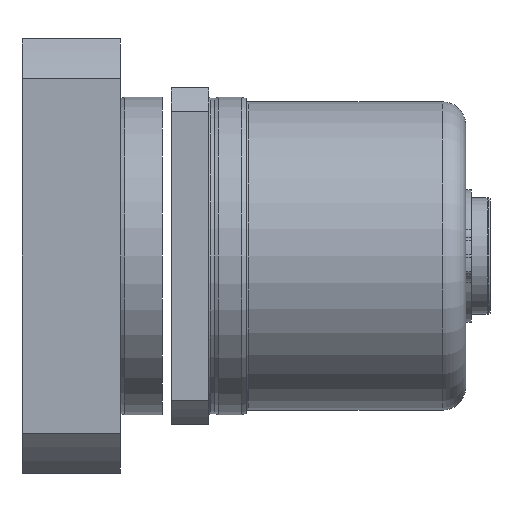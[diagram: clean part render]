
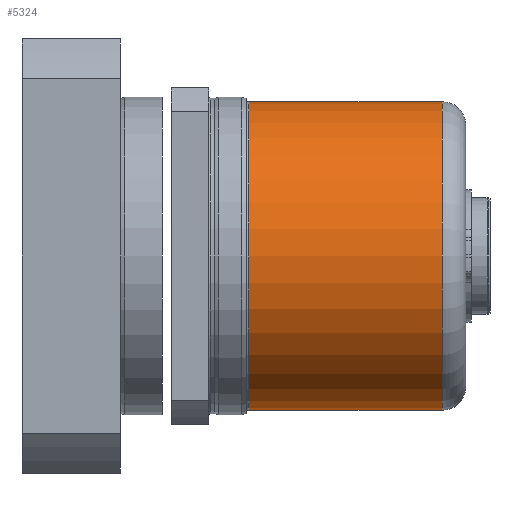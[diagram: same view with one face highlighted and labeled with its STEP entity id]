
A CAD part, front view. The second image highlights one B-rep face of the part: STEP entity #5324.
In plain terms, the highlighted cylindrical face has radius 33 mm (diameter 66 mm), a partial arc.
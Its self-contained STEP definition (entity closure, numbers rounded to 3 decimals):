
#173 = ORIENTED_EDGE ( 'NONE', *, *, #11495, .T. ) ;
#676 = EDGE_CURVE ( 'NONE', #5536, #8089, #12330, .T. ) ;
#807 = CARTESIAN_POINT ( 'NONE',  ( 69., 0., 33. ) ) ;
#1372 = VECTOR ( 'NONE', #6450, 1000. ) ;
#2960 = FACE_OUTER_BOUND ( 'NONE', #11163, .T. ) ;
#3370 = ORIENTED_EDGE ( 'NONE', *, *, #5096, .F. ) ;
#4267 = DIRECTION ( 'NONE',  ( 1., 0., 0. ) ) ;
#4444 = VECTOR ( 'NONE', #11210, 1000. ) ;
#5096 = EDGE_CURVE ( 'NONE', #5536, #9039, #9550, .T. ) ;
#5120 = CARTESIAN_POINT ( 'NONE',  ( 27.5, 0., 0. ) ) ;
#5306 = CARTESIAN_POINT ( 'NONE',  ( 27., 0., 0. ) ) ;
#5324 = ADVANCED_FACE ( 'NONE', ( #2960 ), #12036, .T. ) ;
#5447 = CARTESIAN_POINT ( 'NONE',  ( 27., 0., -33. ) ) ;
#5505 = CARTESIAN_POINT ( 'NONE',  ( 27.5, 0., 33. ) ) ;
#5536 = VERTEX_POINT ( 'NONE', #5505 ) ;
#5864 = EDGE_CURVE ( 'NONE', #8089, #9906, #9346, .T. ) ;
#5964 = DIRECTION ( 'NONE',  ( -1., 0., 0. ) ) ;
#6326 = CARTESIAN_POINT ( 'NONE',  ( 69., 0., -33. ) ) ;
#6450 = DIRECTION ( 'NONE',  ( 1., 0., 0. ) ) ;
#6677 = AXIS2_PLACEMENT_3D ( 'NONE', #5120, #11973, #11006 ) ;
#7024 = CARTESIAN_POINT ( 'NONE',  ( 69., 0., 0. ) ) ;
#7146 = ORIENTED_EDGE ( 'NONE', *, *, #5864, .T. ) ;
#7709 = CARTESIAN_POINT ( 'NONE',  ( 27.5, 0., -33. ) ) ;
#7883 = AXIS2_PLACEMENT_3D ( 'NONE', #5306, #4267, #8306 ) ;
#8089 = VERTEX_POINT ( 'NONE', #7709 ) ;
#8306 = DIRECTION ( 'NONE',  ( 0., 0., -1. ) ) ;
#8840 = ORIENTED_EDGE ( 'NONE', *, *, #676, .T. ) ;
#9039 = VERTEX_POINT ( 'NONE', #807 ) ;
#9346 = LINE ( 'NONE', #5447, #4444 ) ;
#9550 = LINE ( 'NONE', #10714, #1372 ) ;
#9906 = VERTEX_POINT ( 'NONE', #6326 ) ;
#10714 = CARTESIAN_POINT ( 'NONE',  ( 27., 0., 33. ) ) ;
#10748 = CIRCLE ( 'NONE', #12412, 33. ) ;
#11006 = DIRECTION ( 'NONE',  ( 0., 0., -1. ) ) ;
#11163 = EDGE_LOOP ( 'NONE', ( #3370, #8840, #7146, #173 ) ) ;
#11210 = DIRECTION ( 'NONE',  ( 1., 0., 0. ) ) ;
#11495 = EDGE_CURVE ( 'NONE', #9906, #9039, #10748, .T. ) ;
#11973 = DIRECTION ( 'NONE',  ( 1., 0., 0. ) ) ;
#12036 = CYLINDRICAL_SURFACE ( 'NONE', #7883, 33. ) ;
#12330 = CIRCLE ( 'NONE', #6677, 33. ) ;
#12412 = AXIS2_PLACEMENT_3D ( 'NONE', #7024, #5964, #12850 ) ;
#12850 = DIRECTION ( 'NONE',  ( 0., 0., -1. ) ) ;
